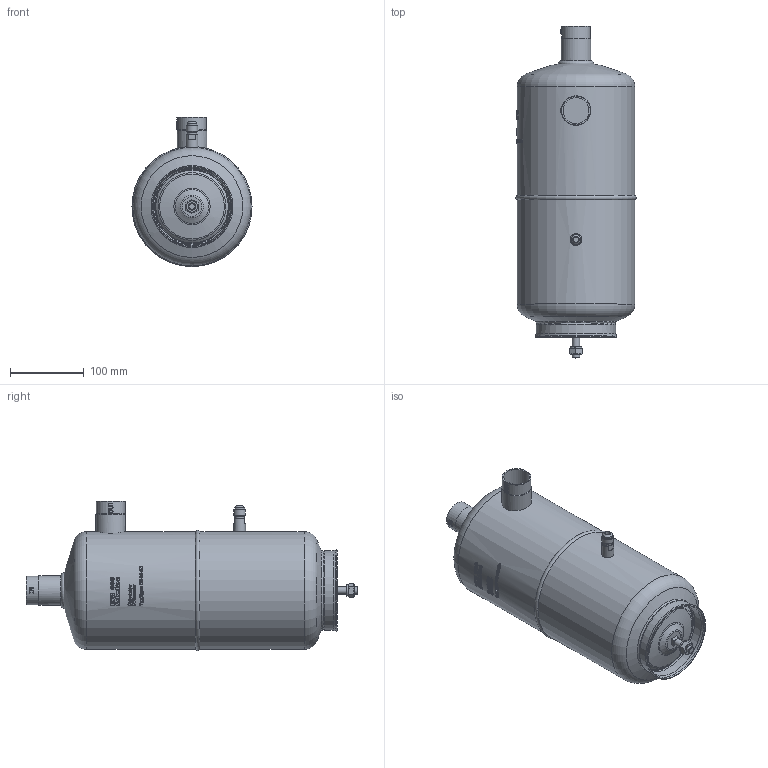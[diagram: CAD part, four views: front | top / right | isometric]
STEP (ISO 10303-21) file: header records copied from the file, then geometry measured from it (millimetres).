
FILE_DESCRIPTION(/* description */ (''),/* implementation_level */ '2;1');
FILE_NAME(/* name */ 'P:\OS\OS-35-CD\OS-35-CD.stp',/* time_stamp */ '2017-10-04T08:03:33+02:00',/* author */ ('neufeld'),/* organization */ (''),/* preprocessor_version */ 'ST-DEVELOPER v16.1',/* originating_system */ 'Autodesk Inventor 2016',/* authorisation */ '');
FILE_SCHEMA (('AUTOMOTIVE_DESIGN { 1 0 10303 214 3 1 1 }'));
Length unit declared in the file: millimetre
Products named in the file (2): OS-35-CD; OS-35-CD_1
Assembly tree (1 placements, depth 2):
  OS-35-CD_1
    OS-35-CD
Bounding box: 163.14 x 450.64 x 202.57 mm (x, y, z)
Volume: 6928186 mm3; surface area: 236795.9 mm2
Topology: 1 solids, 1 shells, 1043 faces, 2806 edges, 1859 vertices
Faces by surface type: plane 528, bspline 379, cylinder 101, cone 19, torus 13, sphere 3
Full cylindrical faces by diameter (mm): 7.2 x1, 10 x2, 12.9 x1, 13.5 x1, 15.7 x1, 16 x1, 35.2 x2, 39 x2, 40 x2, 160 x2
Entity records: 40463 total; most frequent: CARTESIAN_POINT 16462, ORIENTED_EDGE 5506, DIRECTION 4030, EDGE_CURVE 2753, VERTEX_POINT 1851, AXIS2_PLACEMENT_3D 1392, LINE 1246, VECTOR 1246
